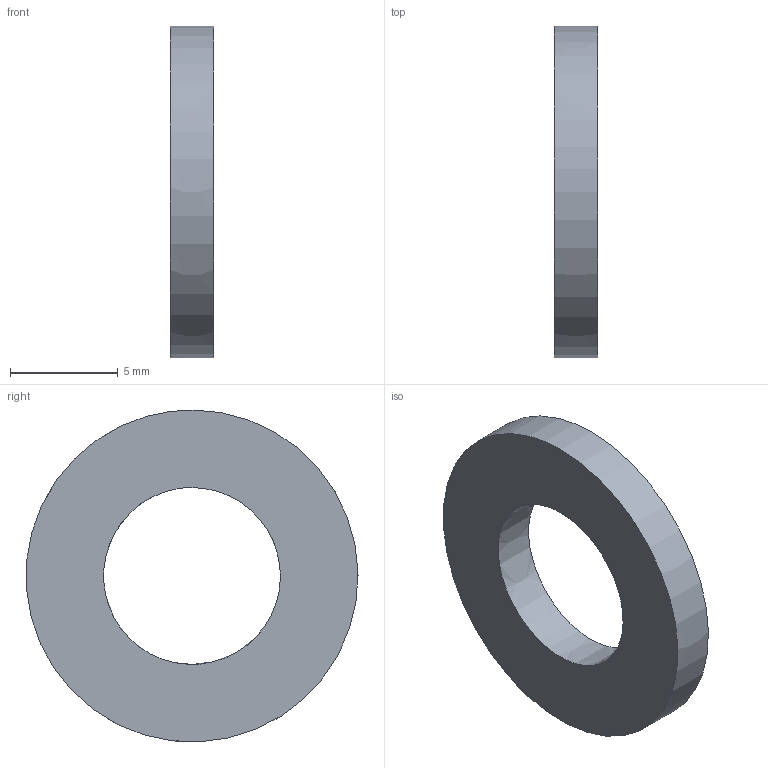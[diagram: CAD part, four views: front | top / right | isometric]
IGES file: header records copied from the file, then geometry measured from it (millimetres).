
Start section: JAMA-IS VERSION  1.0
Global section: file name: E:\tools-models\その他メーカー2\INOAC車輪\7月\HP-100WJ\HP-100WJ-16.igs; native system: CAM-TOOL; preprocessor: C3out Version 11.1.1.50212 (2015/02/12); author: NONE; organization: NONE; date: 200704.165014; units: millimetre
Bounding box: 2 x 15.4 x 15.4 mm (x, y, z)
Surface area: 415.2 mm2 (no closed solid volume)
Topology: 0 solids, 0 shells, 4 faces, 14 edges, 12 vertices
Faces by surface type: bspline 4
